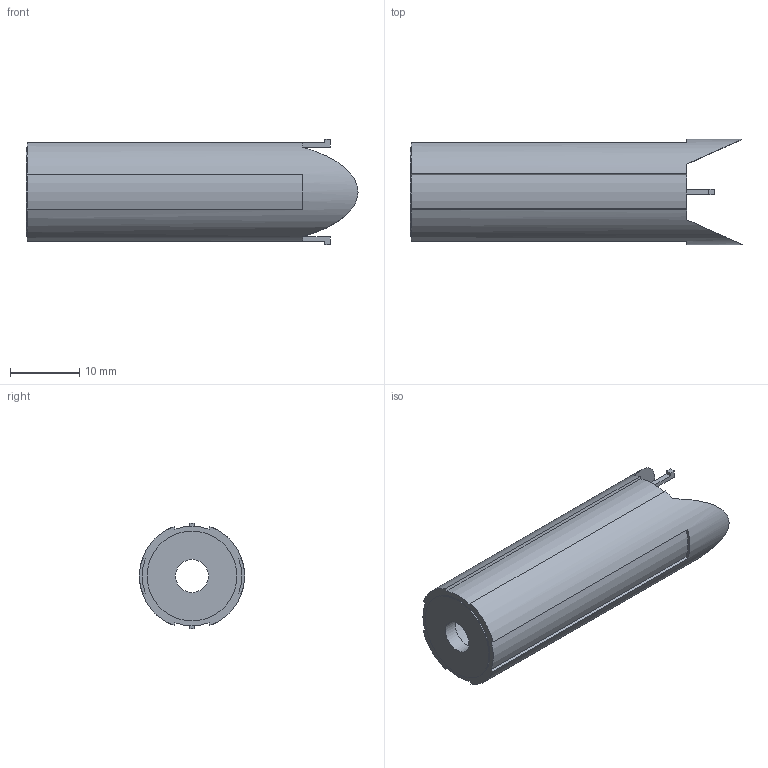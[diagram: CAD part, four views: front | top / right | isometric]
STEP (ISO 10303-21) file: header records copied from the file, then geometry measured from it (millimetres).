
FILE_DESCRIPTION(/* description */ ('Unknown'),/* implementation_level */ '2;1');
FILE_NAME(/* name */ 'ClGrey_4638507_b)_AVV',/* time_stamp */ '2025-07-21T23:58:29+02:00',/* author */ ('Unknown'),/* organization */ ('Unknown'),/* preprocessor_version */ 'ST-DEVELOPER v19.4',/* originating_system */ 'Solid Edge',/* authorisation */ 'Unknown');
FILE_SCHEMA (('AUTOMOTIVE_DESIGN {1 0 10303 214 3 1 1}'));
Length unit declared in the file: millimetre
Products named in the file (1): ClGrey_4638507_b)_AVV
Bounding box: 48 x 15.2 x 15.2 mm (x, y, z)
Volume: 1978.5 mm3; surface area: 4209.1 mm2
Topology: 1 solids, 1 shells, 38 faces, 105 edges, 70 vertices
Faces by surface type: plane 27, cylinder 11
Full cylindrical faces by diameter (mm): 4.8 x1, 13 x2
Entity records: 1236 total; most frequent: DIRECTION 216, CARTESIAN_POINT 209, ORIENTED_EDGE 202, EDGE_CURVE 101, AXIS2_PLACEMENT_3D 76, VERTEX_POINT 69, LINE 64, VECTOR 64
